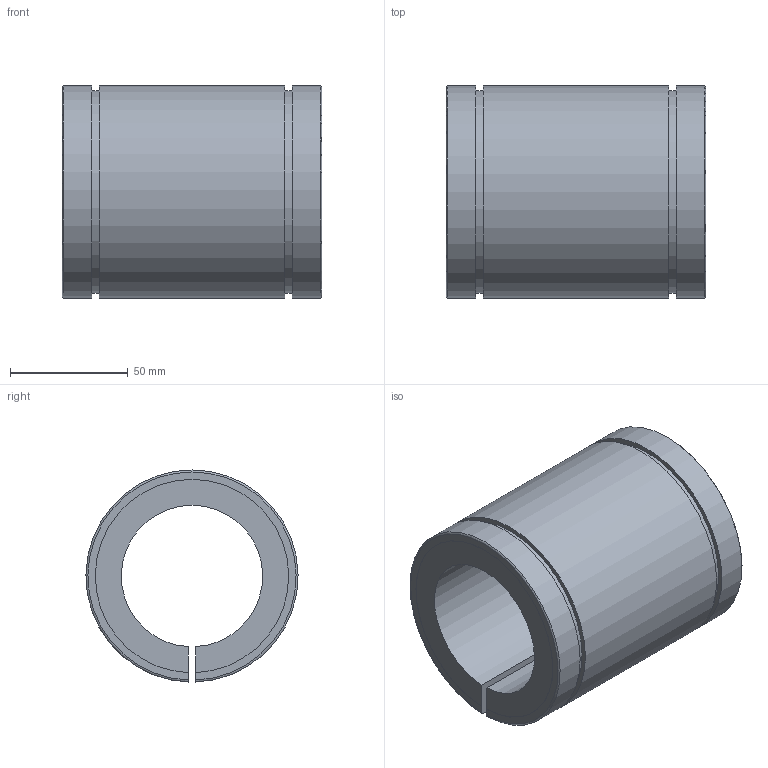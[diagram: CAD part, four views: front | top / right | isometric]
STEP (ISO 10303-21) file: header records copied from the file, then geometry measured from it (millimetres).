
FILE_DESCRIPTION((''),'2;1');
FILE_NAME('D:\製品 (図面)\カタログ用3D\リニアベアリング関連\STEP形式\L-ADJ\L60-ADJ.stp','2010-06-02T17:38:43',('Tsuchiya'),(''),'Autodesk Inventor 10','Autodesk Inventor 10','');
FILE_SCHEMA(('AUTOMOTIVE_DESIGN { 1 0 10303 214 1 1 1 1 }'));
Length unit declared in the file: millimetre
Products named in the file (1): L60-ADJ
Bounding box: 110 x 89.99 x 89.97 mm (x, y, z)
Volume: 379825.1 mm3; surface area: 63377.4 mm2
Topology: 1 solids, 1 shells, 20 faces, 54 edges, 36 vertices
Faces by surface type: plane 10, cylinder 8, torus 2
Entity records: 711 total; most frequent: CARTESIAN_POINT 171, DIRECTION 110, ORIENTED_EDGE 108, EDGE_CURVE 54, AXIS2_PLACEMENT_3D 39, VERTEX_POINT 36, VECTOR 32, LINE 32
